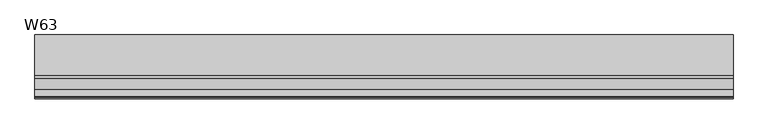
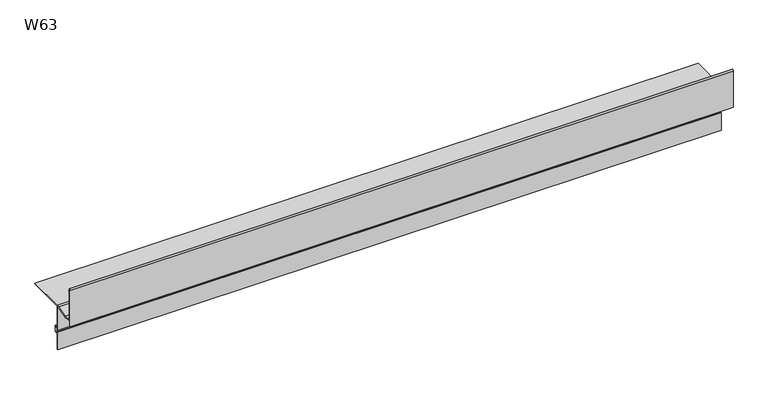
"""IFC4 building model written with IfcOpenShell, lengths in millimetres: proxy geometry, W63 Profil okapowy prosty : W63."""

from ifc_helpers import new_model, si_unit, point, frame, frame_2d, origin, place, context, project, spatial, polyline, circle_curve, trimmed, segment, composite_curve, outline, extrude, source, transform, mapped, element, save


def w63_4f693327(model_context):
    return source(origin(), model_context, "Body", "SweptSolid", [
        extrude(outline(composite_curve([segment(trimmed(circle_curve(frame_2d((-7.9099076, -20.0)), 20.0), [point((-12.814071, -0.610591))], [point((-7.9099076, 0.0))], False, "CARTESIAN"), True, "CONTINUOUS"), segment(polyline([(-7.9099076, 0.0), (72.7447545, 0.0), (72.7447545, -1.8), (-8.6, -1.8), (-8.6, -49.3), (0.0, -49.3), (0.0, -62.7), (-8.7, -62.7), (-8.7, -96.8), (-10.4, -96.8), (-10.4, -58.5), (-8.2, -58.5), (-8.2, -60.9), (-1.7, -60.9), (-1.7, -51.1), (-8.2, -51.1), (-8.2, -53.5), (-10.4, -53.5), (-10.4, -1.9598328), (-35.8680749, -8.4014734), (-37.3, -8.4014734), (-37.3, -9.6220163), (-38.5, -10.7671837), (-38.5, -8.4014734), (-52.5, -8.4014734), (-52.5, -18.605576), (-54.0, -19.8427552), (-54.0, 60.2083042)]), True, "CONTINUOUS"), segment(trimmed(circle_curve(frame_2d((-51.0901385, 60.1628945)), 2.9102158), [point((-54.0, 60.2083042))], [point((-51.5, 63.0441043))], False, "CARTESIAN"), True, "CONTINUOUS"), segment(polyline([(-51.5, 63.0441043), (-51.5, 61.2083042)]), True, "CONTINUOUS"), segment(trimmed(circle_curve(frame_2d((-51.5, 60.2083042)), 1.0), [point((-51.5, 61.2083042))], [point((-52.5, 60.2083042))], True, "CARTESIAN"), True, "CONTINUOUS"), segment(polyline([(-52.5, 60.2083042), (-52.5, 57.2983042), (-49.5, 57.2983042), (-49.5, 55.7983042), (-52.2, 55.7983042), (-52.2, -6.6014734), (-36.5, -6.6014734), (-12.814071, -0.610591)]), True, "CONTINUOUS")], self_intersect=False)), frame((0.0, 0.0, 0.0), z_axis=(1.0, 0.0, 0.0), x_axis=(0.0, 1.0, 0.0)), (0.0, 0.0, 1.0), 1385.0),
    ])


if __name__ == "__main__":
    model = new_model("IFC4")
    model_context = context("Model", 3, world=origin())
    ifc_project = project(units=[si_unit("LENGTHUNIT", "METRE", prefix="MILLI")], contexts=[model_context])
    site = spatial("IfcSite", under=ifc_project)
    building = spatial("IfcBuilding", under=site)
    placement = place(None, origin())
    w63_shape = w63_4f693327(model_context)
    element("IfcBuildingElementProxy", 1, Name="W63 Profil okapowy prosty : W63", ObjectType="W63 Profil okapowy prosty : W63", at=placement, inside=building, context=model_context, shape_type="MappedRepresentation", body=[
        mapped(w63_shape, transform((0.0, 0.0, 0.0), x_axis=(1.0, 0.0, 0.0), y_axis=(0.0, 1.0, 0.0), z_axis=(0.0, 0.0, 1.0))),
    ])
    save(model, "model.ifc")
